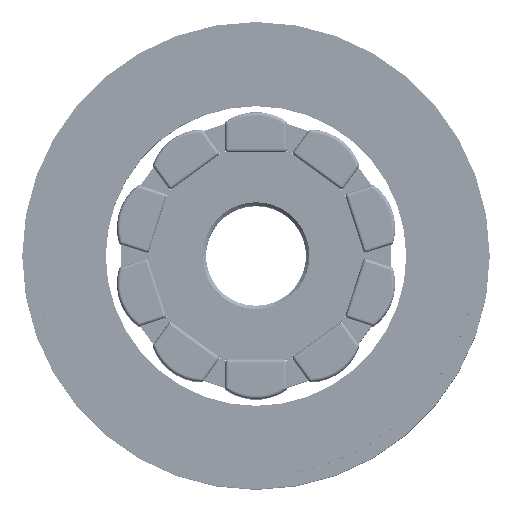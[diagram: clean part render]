
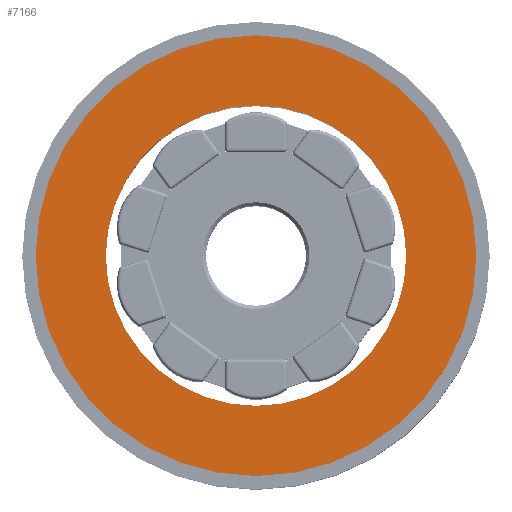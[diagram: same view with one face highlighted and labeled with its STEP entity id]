
A CAD part, top view. The second image highlights one B-rep face of the part: STEP entity #7166.
In plain terms, the highlighted planar face has unit normal (0, 0, 1).
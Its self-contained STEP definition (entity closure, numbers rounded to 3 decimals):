
#1007 = ORIENTED_EDGE ( 'NONE', *, *, #15301, .T. ) ;
#2076 = CARTESIAN_POINT ( 'NONE',  ( 0., 0., 1.4 ) ) ;
#2758 = VERTEX_POINT ( 'NONE', #23534 ) ;
#3292 = EDGE_CURVE ( 'NONE', #2758, #21871, #9701, .T. ) ;
#3847 = CIRCLE ( 'NONE', #22969, 4.5 ) ;
#3996 = ORIENTED_EDGE ( 'NONE', *, *, #13881, .T. ) ;
#4036 = DIRECTION ( 'NONE',  ( 1., 0., 0. ) ) ;
#4788 = AXIS2_PLACEMENT_3D ( 'NONE', #23087, #22323, #12053 ) ;
#5422 = ORIENTED_EDGE ( 'NONE', *, *, #3292, .F. ) ;
#5639 = CIRCLE ( 'NONE', #17625, 6.6 ) ;
#5883 = AXIS2_PLACEMENT_3D ( 'NONE', #16368, #26965, #12070 ) ;
#6833 = CARTESIAN_POINT ( 'NONE',  ( 6.6, 0., 1.4 ) ) ;
#7166 = ADVANCED_FACE ( 'NONE', ( #7194, #18318 ), #15964, .T. ) ;
#7194 = FACE_OUTER_BOUND ( 'NONE', #27367, .T. ) ;
#7338 = CARTESIAN_POINT ( 'NONE',  ( 0., 0., 1.4 ) ) ;
#7483 = ORIENTED_EDGE ( 'NONE', *, *, #8030, .F. ) ;
#7991 = DIRECTION ( 'NONE',  ( 1., 0., 0. ) ) ;
#8030 = EDGE_CURVE ( 'NONE', #21871, #2758, #3847, .T. ) ;
#9701 = CIRCLE ( 'NONE', #4788, 4.5 ) ;
#10729 = CARTESIAN_POINT ( 'NONE',  ( -4.5, 0., 1.4 ) ) ;
#12053 = DIRECTION ( 'NONE',  ( 1., 0., 0. ) ) ;
#12070 = DIRECTION ( 'NONE',  ( 1., 0., 0. ) ) ;
#12282 = CARTESIAN_POINT ( 'NONE',  ( -6.6, 0., 1.4 ) ) ;
#13803 = AXIS2_PLACEMENT_3D ( 'NONE', #7338, #16088, #16236 ) ;
#13881 = EDGE_CURVE ( 'NONE', #17026, #21214, #5639, .T. ) ;
#15301 = EDGE_CURVE ( 'NONE', #21214, #17026, #22848, .T. ) ;
#15964 = PLANE ( 'NONE',  #13803 ) ;
#16088 = DIRECTION ( 'NONE',  ( 0., 0., 1. ) ) ;
#16236 = DIRECTION ( 'NONE',  ( 1., 0., 0. ) ) ;
#16368 = CARTESIAN_POINT ( 'NONE',  ( 0., 0., 1.4 ) ) ;
#17026 = VERTEX_POINT ( 'NONE', #6833 ) ;
#17625 = AXIS2_PLACEMENT_3D ( 'NONE', #25112, #27076, #7991 ) ;
#18154 = EDGE_LOOP ( 'NONE', ( #7483, #5422 ) ) ;
#18318 = FACE_BOUND ( 'NONE', #18154, .T. ) ;
#21214 = VERTEX_POINT ( 'NONE', #12282 ) ;
#21871 = VERTEX_POINT ( 'NONE', #10729 ) ;
#22323 = DIRECTION ( 'NONE',  ( 0., 0., 1. ) ) ;
#22848 = CIRCLE ( 'NONE', #5883, 6.6 ) ;
#22969 = AXIS2_PLACEMENT_3D ( 'NONE', #2076, #23121, #4036 ) ;
#23087 = CARTESIAN_POINT ( 'NONE',  ( 0., 0., 1.4 ) ) ;
#23121 = DIRECTION ( 'NONE',  ( 0., 0., 1. ) ) ;
#23534 = CARTESIAN_POINT ( 'NONE',  ( 4.5, 0., 1.4 ) ) ;
#25112 = CARTESIAN_POINT ( 'NONE',  ( 0., 0., 1.4 ) ) ;
#26965 = DIRECTION ( 'NONE',  ( 0., 0., 1. ) ) ;
#27076 = DIRECTION ( 'NONE',  ( 0., 0., 1. ) ) ;
#27367 = EDGE_LOOP ( 'NONE', ( #1007, #3996 ) ) ;
